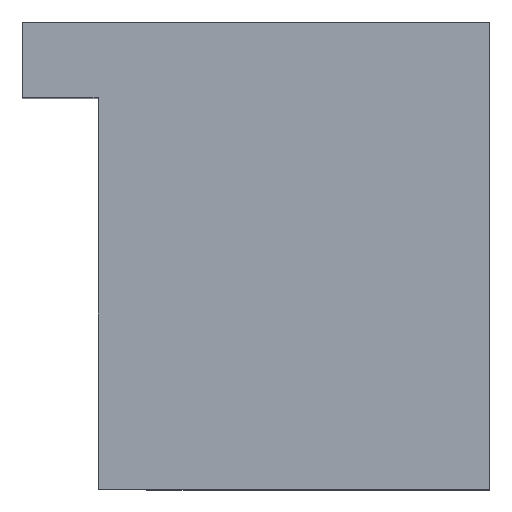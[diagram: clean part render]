
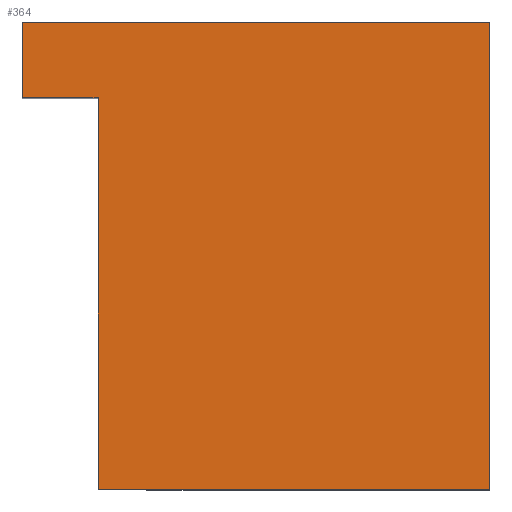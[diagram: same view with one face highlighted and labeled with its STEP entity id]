
A CAD part, top view. The second image highlights one B-rep face of the part: STEP entity #364.
In plain terms, the highlighted planar face has unit normal (0, 0, 1).
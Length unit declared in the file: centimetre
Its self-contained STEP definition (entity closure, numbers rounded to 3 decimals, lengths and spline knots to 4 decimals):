
#26 = CARTESIAN_POINT ( 'NONE',  ( 161.895, 837.807, 1000. ) ) ;
#32 = VERTEX_POINT ( 'NONE', #361 ) ;
#33 = DIRECTION ( 'NONE',  ( 0., -1., 0. ) ) ;
#79 = EDGE_CURVE ( 'NONE', #231, #32, #502, .T. ) ;
#103 = DIRECTION ( 'NONE',  ( -1., 0., 0. ) ) ;
#111 = CARTESIAN_POINT ( 'NONE',  ( 0., 837.807, 1000. ) ) ;
#120 = VECTOR ( 'NONE', #450, 100. ) ;
#146 = VECTOR ( 'NONE', #33, 100. ) ;
#148 = PLANE ( 'NONE',  #176 ) ;
#150 = EDGE_CURVE ( 'NONE', #332, #347, #167, .T. ) ;
#167 = LINE ( 'NONE', #252, #120 ) ;
#174 = DIRECTION ( 'NONE',  ( -1., 0., 0. ) ) ;
#176 = AXIS2_PLACEMENT_3D ( 'NONE', #514, #670, #363 ) ;
#190 = VECTOR ( 'NONE', #791, 100. ) ;
#217 = VECTOR ( 'NONE', #103, 100. ) ;
#226 = CARTESIAN_POINT ( 'NONE',  ( 0., 1000., 1000. ) ) ;
#231 = VERTEX_POINT ( 'NONE', #510 ) ;
#252 = CARTESIAN_POINT ( 'NONE',  ( 0., 0., 1000. ) ) ;
#265 = CARTESIAN_POINT ( 'NONE',  ( 1000., 1000., 1000. ) ) ;
#332 = VERTEX_POINT ( 'NONE', #709 ) ;
#343 = CARTESIAN_POINT ( 'NONE',  ( 161.895, 837.807, 1000. ) ) ;
#347 = VERTEX_POINT ( 'NONE', #446 ) ;
#360 = FACE_OUTER_BOUND ( 'NONE', #687, .T. ) ;
#361 = CARTESIAN_POINT ( 'NONE',  ( 0., 837.807, 1000. ) ) ;
#363 = DIRECTION ( 'NONE',  ( 1., 0., 0. ) ) ;
#364 = ADVANCED_FACE ( 'NONE', ( #360 ), #148, .T. ) ;
#375 = EDGE_CURVE ( 'NONE', #555, #32, #717, .T. ) ;
#380 = ORIENTED_EDGE ( 'NONE', *, *, #433, .T. ) ;
#383 = ORIENTED_EDGE ( 'NONE', *, *, #375, .F. ) ;
#433 = EDGE_CURVE ( 'NONE', #555, #332, #663, .T. ) ;
#446 = CARTESIAN_POINT ( 'NONE',  ( 1000., 0., 1000. ) ) ;
#448 = ORIENTED_EDGE ( 'NONE', *, *, #529, .T. ) ;
#450 = DIRECTION ( 'NONE',  ( 1., 0., 0. ) ) ;
#451 = EDGE_CURVE ( 'NONE', #594, #231, #519, .T. ) ;
#488 = VECTOR ( 'NONE', #685, 100. ) ;
#502 = LINE ( 'NONE', #226, #190 ) ;
#510 = CARTESIAN_POINT ( 'NONE',  ( 0., 1000., 1000. ) ) ;
#514 = CARTESIAN_POINT ( 'NONE',  ( 0., 0., 1000. ) ) ;
#519 = LINE ( 'NONE', #885, #771 ) ;
#529 = EDGE_CURVE ( 'NONE', #347, #594, #556, .T. ) ;
#543 = CARTESIAN_POINT ( 'NONE',  ( 1000., 1000., 1000. ) ) ;
#555 = VERTEX_POINT ( 'NONE', #343 ) ;
#556 = LINE ( 'NONE', #265, #488 ) ;
#594 = VERTEX_POINT ( 'NONE', #543 ) ;
#613 = ORIENTED_EDGE ( 'NONE', *, *, #150, .T. ) ;
#663 = LINE ( 'NONE', #26, #146 ) ;
#670 = DIRECTION ( 'NONE',  ( 0., 0., 1. ) ) ;
#685 = DIRECTION ( 'NONE',  ( 0., 1., 0. ) ) ;
#687 = EDGE_LOOP ( 'NONE', ( #380, #613, #448, #741, #915, #383 ) ) ;
#709 = CARTESIAN_POINT ( 'NONE',  ( 161.895, 0., 1000. ) ) ;
#717 = LINE ( 'NONE', #111, #217 ) ;
#741 = ORIENTED_EDGE ( 'NONE', *, *, #451, .T. ) ;
#771 = VECTOR ( 'NONE', #174, 100. ) ;
#791 = DIRECTION ( 'NONE',  ( 0., -1., 0. ) ) ;
#885 = CARTESIAN_POINT ( 'NONE',  ( 0., 1000., 1000. ) ) ;
#915 = ORIENTED_EDGE ( 'NONE', *, *, #79, .T. ) ;
